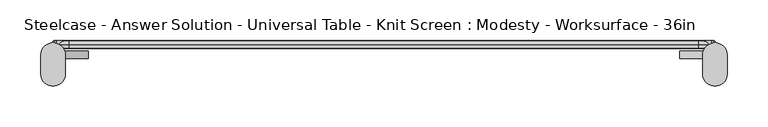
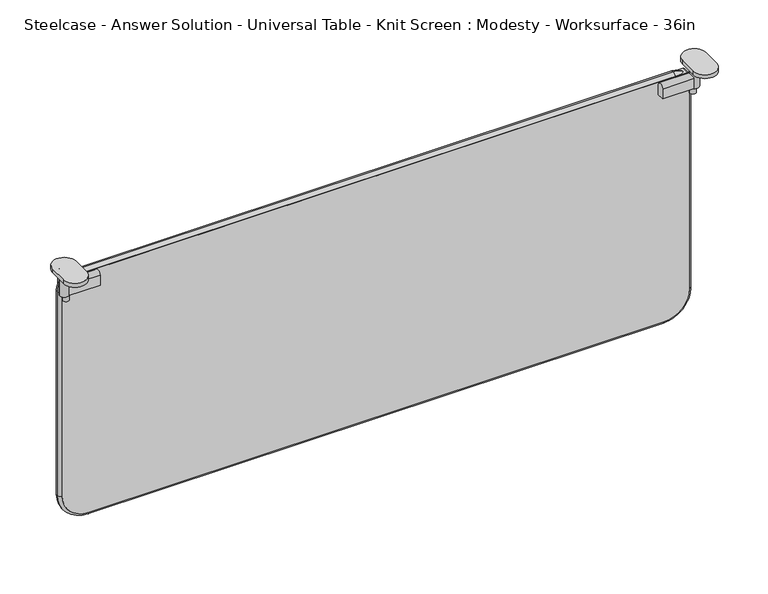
"""IFC4 building model written with IfcOpenShell, lengths in millimetres: furniture geometry, Steelcase - Answer Solution - Universal Table - Knit Screen : Modesty - Worksurface - 36in."""

from ifc_helpers import new_model, si_unit, point, frame, frame_2d, origin, place, context, project, spatial, polyline, circle_curve, ellipse_curve, trimmed, segment, composite_curve, outline, extrude, source, transform, mapped, element, save
from ifc_brep_helpers import plane_surface, cylinder_surface, revolved_surface, advanced_brep


def steelcase_answer_solution_universal_table_knit_screen_6d2ca827(model_context):
    return source(origin(), model_context, "Body", "SolidModel", [
        extrude(outline(composite_curve([segment(polyline([(-29.128946, 652.4216837), (-29.128946, 665.7829841)]), True, "CONTINUOUS"), segment(trimmed(circle_curve(frame_2d((-24.4350465, 665.7829841)), 4.6938995), [point((-29.128946, 665.7829841))], [point((-19.7411469, 665.7829841))], False, "CARTESIAN"), True, "CONTINUOUS"), segment(polyline([(-19.7411469, 665.7829841), (-19.7411469, 652.4216837), (-29.128946, 652.4216837)]), True, "CONTINUOUS")], self_intersect=False)), frame((816.6167228, 0.0, 0.0), z_axis=(1.0, 0.0, 0.0), x_axis=(0.0, 1.0, 0.0)), (0.0, 0.0, 1.0), 43.5285515),
        extrude(outline(composite_curve([segment(trimmed(circle_curve(frame_2d((858.2143327, -24.4352196)), 3.96875), [point((862.1830827, -24.4352196))], [point((854.2455827, -24.4352196))], False, "CARTESIAN"), True, "CONTINUOUS"), segment(trimmed(circle_curve(frame_2d((858.2143327, -24.4352196)), 3.96875), [point((854.2455827, -24.4352196))], [point((862.1830827, -24.4352196))], False, "CARTESIAN"), True, "CONTINUOUS")], self_intersect=False)), frame((0.0, 0.0, 644.3415626), z_axis=(0.0, 0.0, 1.0), x_axis=(1.0, 0.0, 0.0)), (0.0, 0.0, 1.0), 8.0801211),
        extrude(outline(composite_curve([segment(trimmed(circle_curve(frame_2d((860.1452743, -24.4352196)), 5.8800133), [point((866.0252876, -24.4352196))], [point((854.265261, -24.4352196))], False, "CARTESIAN"), True, "CONTINUOUS"), segment(trimmed(circle_curve(frame_2d((860.1452743, -24.4352196)), 5.8800133), [point((854.265261, -24.4352196))], [point((866.0252876, -24.4352196))], False, "CARTESIAN"), True, "CONTINUOUS")], self_intersect=False)), frame((0.0, 0.0, 652.4216837), z_axis=(0.0, 0.0, 1.0), x_axis=(1.0, 0.0, 0.0)), (0.0, 0.0, 1.0), 34.3007611),
        extrude(outline(composite_curve([segment(polyline([(875.201332, -24.6349615), (875.201332, -48.0866189)]), True, "CONTINUOUS"), segment(trimmed(circle_curve(frame_2d((860.145565, -48.0866189)), 15.0557671), [point((875.201332, -48.0866189))], [point((845.0897979, -48.0866189))], False, "CARTESIAN"), True, "CONTINUOUS"), segment(polyline([(845.0897979, -48.0866189), (845.0897979, -24.6349615)]), True, "CONTINUOUS"), segment(trimmed(circle_curve(frame_2d((860.145565, -24.6349615)), 15.0557671), [point((845.0897979, -24.6349615))], [point((875.201332, -24.6349615))], False, "CARTESIAN"), True, "CONTINUOUS")], self_intersect=False)), frame((0.0, 0.0, 686.7224448), z_axis=(0.0, 0.0, 1.0), x_axis=(1.0, 0.0, 0.0)), (0.0, 0.0, 1.0), 5.4275552),
        extrude(outline(composite_curve([segment(polyline([(-29.128946, 652.4216837), (-29.128946, 665.7829841)]), True, "CONTINUOUS"), segment(trimmed(circle_curve(frame_2d((-24.4350465, 665.7829841)), 4.6938995), [point((-29.128946, 665.7829841))], [point((-19.7411469, 665.7829841))], False, "CARTESIAN"), True, "CONTINUOUS"), segment(polyline([(-19.7411469, 665.7829841), (-19.7411469, 652.4216837), (-29.128946, 652.4216837)]), True, "CONTINUOUS")], self_intersect=False)), frame((47.6108911, 0.0, 0.0), z_axis=(1.0, 0.0, 0.0), x_axis=(0.0, 1.0, 0.0)), (0.0, 0.0, 1.0), 43.5285515),
        extrude(outline(composite_curve([segment(trimmed(circle_curve(frame_2d((49.5418327, -24.4352196)), 3.96875), [point((45.5730827, -24.4352196))], [point((53.5105827, -24.4352196))], False, "CARTESIAN"), True, "CONTINUOUS"), segment(trimmed(circle_curve(frame_2d((49.5418327, -24.4352196)), 3.96875), [point((53.5105827, -24.4352196))], [point((45.5730827, -24.4352196))], False, "CARTESIAN"), True, "CONTINUOUS")], self_intersect=False)), frame((0.0, 0.0, 644.3415626), z_axis=(0.0, 0.0, 1.0), x_axis=(1.0, 0.0, 0.0)), (0.0, 0.0, 1.0), 8.0801211),
        extrude(outline(composite_curve([segment(trimmed(circle_curve(frame_2d((47.6108911, -24.4352196)), 5.8800133), [point((41.7308778, -24.4352196))], [point((53.4909043, -24.4352196))], False, "CARTESIAN"), True, "CONTINUOUS"), segment(trimmed(circle_curve(frame_2d((47.6108911, -24.4352196)), 5.8800133), [point((53.4909043, -24.4352196))], [point((41.7308778, -24.4352196))], False, "CARTESIAN"), True, "CONTINUOUS")], self_intersect=False)), frame((0.0, 0.0, 652.4216837), z_axis=(0.0, 0.0, 1.0), x_axis=(1.0, 0.0, 0.0)), (0.0, 0.0, 1.0), 34.3007611),
        extrude(outline(composite_curve([segment(trimmed(circle_curve(frame_2d((47.6106004, -24.6349615)), 15.0557671), [point((32.5548333, -24.6349615))], [point((62.6663674, -24.6349615))], False, "CARTESIAN"), True, "CONTINUOUS"), segment(polyline([(62.6663674, -24.6349615), (62.6663674, -48.0866189)]), True, "CONTINUOUS"), segment(trimmed(circle_curve(frame_2d((47.6106004, -48.0866189)), 15.0557671), [point((62.6663674, -48.0866189))], [point((32.5548333, -48.0866189))], False, "CARTESIAN"), True, "CONTINUOUS"), segment(polyline([(32.5548333, -48.0866189), (32.5548333, -24.6349615)]), True, "CONTINUOUS")], self_intersect=False)), frame((0.0, 0.0, 686.7224448), z_axis=(0.0, 0.0, 1.0), x_axis=(1.0, 0.0, 0.0)), (0.0, 0.0, 1.0), 5.4275552),
        extrude(outline(composite_curve([segment(trimmed(circle_curve(frame_2d((370.6234529, 825.1969049)), 33.0004615), [point((337.6229913, 825.1969049))], [point((370.6234529, 858.1973664))], False, "CARTESIAN"), True, "CONTINUOUS"), segment(polyline([(370.6234529, 858.1973664), (663.9643507, 858.1973664)]), True, "CONTINUOUS"), segment(trimmed(circle_curve(frame_2d((663.9643507, 855.3924906)), 2.8048758), [point((663.9643507, 858.1973664))], [point((666.7692266, 855.3924906))], False, "CARTESIAN"), True, "CONTINUOUS"), segment(polyline([(666.7692266, 855.3924906), (666.7692266, 51.8743664)]), True, "CONTINUOUS"), segment(trimmed(circle_curve(frame_2d((664.4536591, 51.8743664)), 2.3155675), [point((666.7692266, 51.8743664))], [point((664.4536591, 49.5587989))], False, "CARTESIAN"), True, "CONTINUOUS"), segment(polyline([(664.4536591, 49.5587989), (371.5400738, 49.5587989)]), True, "CONTINUOUS"), segment(trimmed(circle_curve(frame_2d((371.5400738, 83.4758814)), 33.9170825), [point((371.5400738, 49.5587989))], [point((337.6229913, 83.4758814))], False, "CARTESIAN"), True, "CONTINUOUS"), segment(polyline([(337.6229913, 83.4758814), (337.6229913, 825.1969049)]), True, "CONTINUOUS")], self_intersect=False)), frame((0.0, -16.5783031, 0.0), z_axis=(0.0, 1.0, 0.0), x_axis=(0.0, 0.0, 1.0)), (0.0, 0.0, 1.0), 9.6878455),
        advanced_brep(
        [(45.5730839, -11.7343804, 649.3406591), (66.9873664, -11.7343804, 670.7549416), (66.9873664, -6.8904577, 666.7692266), (49.5587989, -6.8904577, 649.3406591), (49.5587989, -16.5783031, 649.3406591), (66.9873664, -16.5783031, 666.7692266), (49.5587989, -6.8904577, 371.5400738), (45.5730839, -11.7343804, 371.5400738), (49.5587989, -16.5783031, 371.5400738), (83.4758814, -11.7343804, 333.6372763), (83.4758814, -6.8904577, 337.6229913), (83.4758814, -16.5783031, 337.6229913), (825.1969049, -6.8904577, 337.6229913), (825.1969049, -11.7343804, 333.6372763), (825.1969049, -16.5783031, 337.6229913), (862.1830815, -11.7343804, 370.6234529), (858.1973664, -6.8904577, 370.6234529), (858.1973664, -16.5783031, 370.6234529), (858.1973664, -6.8904577, 648.8513507), (862.1830815, -11.7343804, 648.8513507), (858.1973664, -16.5783031, 648.8513507), (840.2794906, -11.7343804, 670.7549416), (840.2794906, -6.8904577, 666.7692266), (840.2794906, -16.5783031, 666.7692266)],
        [
            (0, 1, circle_curve(frame((66.9873664, -11.7343804, 649.3406591), z_axis=(0.0, 1.0, 0.0), x_axis=(0.0, 0.0, 1.0)), 21.4142825)),
            (1, 2, circle_curve(frame((66.9873664, -11.7343804, 665.8186238), z_axis=(-1.0, 0.0, 0.0), x_axis=(0.0, 0.0, 1.0)), 4.9363178)),
            (2, 3, circle_curve(frame((66.9873664, -6.8904577, 649.3406591), z_axis=(0.0, -1.0, 0.0), x_axis=(0.0, 0.0, 1.0)), 17.4285675)),
            (3, 0, circle_curve(frame((50.5094016, -11.7343804, 649.3406591), z_axis=(0.0, 0.0, 1.0), x_axis=(-1.0, 0.0, 0.0)), 4.9363178)),
            (4, 5, circle_curve(frame((66.9873664, -16.5783031, 649.3406591), z_axis=(0.0, 1.0, 0.0), x_axis=(0.0, 0.0, 1.0)), 17.4285675)),
            (5, 1, circle_curve(frame((66.9873664, -11.7343804, 665.8186238), z_axis=(-1.0, 0.0, 0.0), x_axis=(0.0, 0.0, 1.0)), 4.9363178)),
            (0, 4, circle_curve(frame((50.5094016, -11.7343804, 649.3406591), z_axis=(0.0, 0.0, 1.0), x_axis=(-1.0, 0.0, 0.0)), 4.9363178)),
            (2, 5),
            (4, 3),
            (3, 6),
            (6, 7, circle_curve(frame((50.5094016, -11.7343804, 371.5400738), z_axis=(0.0, 0.0, 1.0), x_axis=(-1.0, 0.0, 0.0)), 4.9363178)),
            (7, 0),
            (7, 8, circle_curve(frame((50.5094016, -11.7343804, 371.5400738), z_axis=(0.0, 0.0, 1.0), x_axis=(-1.0, 0.0, 0.0)), 4.9363178)),
            (8, 4),
            (8, 6),
            (9, 7, circle_curve(frame((83.4758814, -11.7343804, 371.5400738), z_axis=(0.0, 1.0, 0.0), x_axis=(-1.0, 0.0, 0.0)), 37.9027975)),
            (6, 10, circle_curve(frame((83.4758814, -6.8904577, 371.5400738), z_axis=(0.0, -1.0, 0.0), x_axis=(-1.0, 0.0, 0.0)), 33.9170825)),
            (10, 9, circle_curve(frame((83.4758814, -11.7343804, 338.573594), z_axis=(-1.0, 0.0, 0.0), x_axis=(0.0, 0.0, -1.0)), 4.9363178)),
            (11, 8, circle_curve(frame((83.4758814, -16.5783031, 371.5400738), z_axis=(0.0, 1.0, 0.0), x_axis=(-1.0, 0.0, 0.0)), 33.9170825)),
            (9, 11, circle_curve(frame((83.4758814, -11.7343804, 338.573594), z_axis=(-1.0, 0.0, 0.0), x_axis=(0.0, 0.0, -1.0)), 4.9363178)),
            (11, 10),
            (10, 12),
            (12, 13, circle_curve(frame((825.1969049, -11.7343804, 338.573594), z_axis=(-1.0, 0.0, 0.0), x_axis=(0.0, 0.0, -1.0)), 4.9363178)),
            (13, 9),
            (13, 14, circle_curve(frame((825.1969049, -11.7343804, 338.573594), z_axis=(-1.0, 0.0, 0.0), x_axis=(0.0, 0.0, -1.0)), 4.9363178)),
            (14, 11),
            (14, 12),
            (15, 13, circle_curve(frame((825.1969049, -11.7343804, 370.6234529), z_axis=(0.0, 1.0, 0.0), x_axis=(0.0, 0.0, -1.0)), 36.9861766)),
            (12, 16, circle_curve(frame((825.1969049, -6.8904577, 370.6234529), z_axis=(0.0, -1.0, 0.0), x_axis=(0.0, 0.0, -1.0)), 33.0004615)),
            (16, 15, circle_curve(frame((857.2467637, -11.7343804, 370.6234529), z_axis=(0.0, 0.0, -1.0), x_axis=(1.0, 0.0, 0.0)), 4.9363178)),
            (17, 14, circle_curve(frame((825.1969049, -16.5783031, 370.6234529), z_axis=(0.0, 1.0, 0.0), x_axis=(0.0, 0.0, -1.0)), 33.0004615)),
            (15, 17, circle_curve(frame((857.2467637, -11.7343804, 370.6234529), z_axis=(0.0, 0.0, -1.0), x_axis=(1.0, 0.0, 0.0)), 4.9363178)),
            (17, 16),
            (16, 18),
            (18, 19, circle_curve(frame((857.2467637, -11.7343804, 648.8513507), z_axis=(0.0, 0.0, -1.0), x_axis=(1.0, 0.0, 0.0)), 4.9363178)),
            (19, 15),
            (19, 20, circle_curve(frame((857.2467637, -11.7343804, 648.8513507), z_axis=(0.0, 0.0, -1.0), x_axis=(1.0, 0.0, 0.0)), 4.9363178)),
            (20, 17),
            (20, 18),
            (21, 19, circle_curve(frame((840.2794906, -11.7343804, 648.8513507), z_axis=(0.0, 1.0, 0.0), x_axis=(1.0, 0.0, 0.0)), 21.9035909)),
            (18, 22, circle_curve(frame((840.2794906, -6.8904577, 648.8513507), z_axis=(0.0, -1.0, 0.0), x_axis=(1.0, 0.0, 0.0)), 17.9178758)),
            (22, 21, circle_curve(frame((840.2794906, -11.7343804, 665.8186238), z_axis=(1.0, 0.0, 0.0), x_axis=(0.0, 0.0, 1.0)), 4.9363178)),
            (23, 20, circle_curve(frame((840.2794906, -16.5783031, 648.8513507), z_axis=(0.0, 1.0, 0.0), x_axis=(1.0, 0.0, 0.0)), 17.9178758)),
            (21, 23, circle_curve(frame((840.2794906, -11.7343804, 665.8186238), z_axis=(1.0, 0.0, 0.0), x_axis=(0.0, 0.0, 1.0)), 4.9363178)),
            (23, 22),
            (22, 2),
            (1, 21),
            (5, 23),
        ],
        [
            revolved_surface(trimmed(ellipse_curve(frame((66.9873664, -11.7343804, 665.8186238), z_axis=(1.0, 0.0, 0.0), x_axis=(0.0, 0.0, 1.0)), 4.9363178, 4.9363178), [point((66.9873664, -6.8904577, 666.7692266))], [point((66.9873664, -11.7343804, 670.7549416))], True, "CARTESIAN"), (66.9873664, -11.7343804, 649.3406591), (0.0, -1.0, 0.0)),
            revolved_surface(trimmed(ellipse_curve(frame((66.9873664, -11.7343804, 665.8186238), z_axis=(1.0, 0.0, 0.0), x_axis=(0.0, 0.0, 1.0)), 4.9363178, 4.9363178), [point((66.9873664, -11.7343804, 670.7549416))], [point((66.9873664, -16.5783031, 666.7692266))], True, "CARTESIAN"), (66.9873664, -11.7343804, 649.3406591), (0.0, -1.0, 0.0)),
            revolved_surface(polyline([(66.9873664, -16.5783031, 666.7692266), (66.9873664, -6.8904577, 666.7692266)]), (66.9873664, -11.7343804, 649.3406591), (0.0, -1.0, 0.0)),
            cylinder_surface(frame((50.5094016, -11.7343804, 649.3406591), z_axis=(0.0, 0.0, 1.0), x_axis=(-1.0, 0.0, 0.0)), 4.9363178),
            plane_surface(frame((49.5587989, -16.5783031, 649.3406591), z_axis=(1.0, 0.0, 0.0), x_axis=(0.0, 0.0, -1.0))),
            revolved_surface(trimmed(ellipse_curve(frame((50.5094016, -11.7343804, 371.5400738), z_axis=(0.0, 0.0, 1.0), x_axis=(-1.0, 0.0, 0.0)), 4.9363178, 4.9363178), [point((49.5587989, -6.8904577, 371.5400738))], [point((45.5730839, -11.7343804, 371.5400738))], True, "CARTESIAN"), (83.4758814, -11.7343804, 371.5400738), (0.0, -1.0, 0.0)),
            revolved_surface(trimmed(ellipse_curve(frame((50.5094016, -11.7343804, 371.5400738), z_axis=(0.0, 0.0, 1.0), x_axis=(-1.0, 0.0, 0.0)), 4.9363178, 4.9363178), [point((45.5730839, -11.7343804, 371.5400738))], [point((49.5587989, -16.5783031, 371.5400738))], True, "CARTESIAN"), (83.4758814, -11.7343804, 371.5400738), (0.0, -1.0, 0.0)),
            revolved_surface(polyline([(49.558798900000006, -16.5783031, 371.5400738), (49.558798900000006, -6.8904577, 371.5400738)]), (83.4758814, -11.7343804, 371.5400738), (0.0, -1.0, 0.0)),
            cylinder_surface(frame((83.4758814, -11.7343804, 338.573594), z_axis=(-1.0, 0.0, 0.0), x_axis=(0.0, 0.0, -1.0)), 4.9363178),
            plane_surface(frame((83.4758814, -16.5783031, 337.6229913), z_axis=(0.0, 0.0, 1.0), x_axis=(1.0, 0.0, 0.0))),
            revolved_surface(trimmed(ellipse_curve(frame((825.1969049, -11.7343804, 338.573594), z_axis=(-1.0, 0.0, 0.0), x_axis=(0.0, 0.0, -1.0)), 4.9363178, 4.9363178), [point((825.1969049, -6.8904577, 337.6229913))], [point((825.1969049, -11.7343804, 333.6372763))], True, "CARTESIAN"), (825.1969049, -11.7343804, 370.6234529), (0.0, -1.0, 0.0)),
            revolved_surface(trimmed(ellipse_curve(frame((825.1969049, -11.7343804, 338.573594), z_axis=(-1.0, 0.0, 0.0), x_axis=(0.0, 0.0, -1.0)), 4.9363178, 4.9363178), [point((825.1969049, -11.7343804, 333.6372763))], [point((825.1969049, -16.5783031, 337.6229913))], True, "CARTESIAN"), (825.1969049, -11.7343804, 370.6234529), (0.0, -1.0, 0.0)),
            revolved_surface(polyline([(825.1969049, -16.5783031, 337.62299140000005), (825.1969049, -6.8904577, 337.62299140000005)]), (825.1969049, -11.7343804, 370.6234529), (0.0, -1.0, 0.0)),
            cylinder_surface(frame((857.2467637, -11.7343804, 370.6234529), z_axis=(0.0, 0.0, -1.0), x_axis=(1.0, 0.0, 0.0)), 4.9363178),
            plane_surface(frame((858.1973664, -16.5783031, 370.6234529), z_axis=(-1.0, 0.0, 0.0), x_axis=(0.0, 0.0, 1.0))),
            revolved_surface(trimmed(ellipse_curve(frame((857.2467637, -11.7343804, 648.8513507), z_axis=(0.0, 0.0, -1.0), x_axis=(1.0, 0.0, 0.0)), 4.9363178, 4.9363178), [point((858.1973664, -6.8904577, 648.8513507))], [point((862.1830815, -11.7343804, 648.8513507))], True, "CARTESIAN"), (840.2794906, -11.7343804, 648.8513507), (0.0, -1.0, 0.0)),
            revolved_surface(trimmed(ellipse_curve(frame((857.2467637, -11.7343804, 648.8513507), z_axis=(0.0, 0.0, -1.0), x_axis=(1.0, 0.0, 0.0)), 4.9363178, 4.9363178), [point((862.1830815, -11.7343804, 648.8513507))], [point((858.1973664, -16.5783031, 648.8513507))], True, "CARTESIAN"), (840.2794906, -11.7343804, 648.8513507), (0.0, -1.0, 0.0)),
            revolved_surface(polyline([(858.1973664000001, -16.5783031, 648.8513507), (858.1973664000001, -6.8904577, 648.8513507)]), (840.2794906, -11.7343804, 648.8513507), (0.0, -1.0, 0.0)),
            cylinder_surface(frame((840.2794906, -11.7343804, 665.8186238), z_axis=(1.0, 0.0, 0.0), x_axis=(0.0, 0.0, 1.0)), 4.9363178),
            plane_surface(frame((840.2794906, -16.5783031, 666.7692266), z_axis=(0.0, 0.0, -1.0), x_axis=(-1.0, 0.0, 0.0))),
        ],
        [
            (0, [[1, 2, 3, 4]]),
            (1, [[5, 6, -1, 7]]),
            (2, [[-3, 8, -5, 9]]),
            (3, [[-4, 10, 11, 12]]),
            (3, [[-7, -12, 13, 14]]),
            (4, [[-9, -14, 15, -10]]),
            (5, [[16, -11, 17, 18]]),
            (6, [[19, -13, -16, 20]]),
            (7, [[-17, -15, -19, 21]]),
            (8, [[-18, 22, 23, 24]]),
            (8, [[-20, -24, 25, 26]]),
            (9, [[-21, -26, 27, -22]]),
            (10, [[28, -23, 29, 30]]),
            (11, [[31, -25, -28, 32]]),
            (12, [[-29, -27, -31, 33]]),
            (13, [[-30, 34, 35, 36]]),
            (13, [[-32, -36, 37, 38]]),
            (14, [[-33, -38, 39, -34]]),
            (15, [[40, -35, 41, 42]]),
            (16, [[43, -37, -40, 44]]),
            (17, [[-41, -39, -43, 45]]),
            (18, [[-42, 46, -2, 47]]),
            (18, [[-44, -47, -6, 48]]),
            (19, [[-45, -48, -8, -46]]),
        ],
    ),
    ])


if __name__ == "__main__":
    model = new_model("IFC4")
    model_context = context("Model", 3, world=origin())
    ifc_project = project(units=[si_unit("LENGTHUNIT", "METRE", prefix="MILLI")], contexts=[model_context])
    site = spatial("IfcSite", under=ifc_project)
    building = spatial("IfcBuilding", under=site)
    placement = place(None, origin())
    steelcase_answer_solution_universal_table_knit_screen_shape = steelcase_answer_solution_universal_table_knit_screen_6d2ca827(model_context)
    element("IfcFurniture", 1, ObjectType="Steelcase - Answer Solution - Universal Table - Knit Screen : Modesty - Worksurface - 36in", at=placement, inside=building, context=model_context, shape_type="MappedRepresentation", body=[
        mapped(steelcase_answer_solution_universal_table_knit_screen_shape, transform((0.0, 0.0, 0.0), x_axis=(1.0, 0.0, 0.0), y_axis=(0.0, 1.0, 0.0), z_axis=(0.0, 0.0, 1.0))),
    ])
    save(model, "model.ifc")
